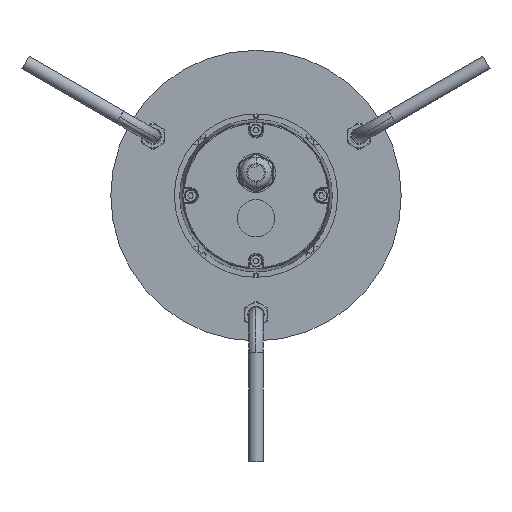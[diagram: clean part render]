
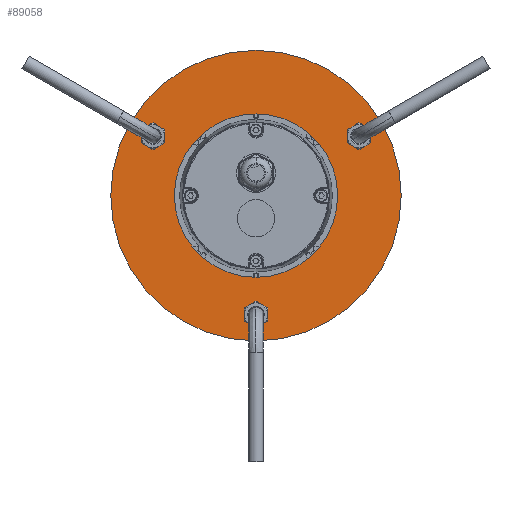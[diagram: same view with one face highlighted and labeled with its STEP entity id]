
A CAD part, front view. The second image highlights one B-rep face of the part: STEP entity #89058.
In plain terms, the highlighted planar face has unit normal (0, -1, 0) as drawn and (0, 0, 1) by its records, which use the part's own axes.
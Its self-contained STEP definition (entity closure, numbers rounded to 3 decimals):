
#88829=CARTESIAN_POINT('',(0.,0.,1.5));
#88830=DIRECTION('',(0.,0.,1.));
#88831=DIRECTION('',(1.,0.,0.));
#88832=AXIS2_PLACEMENT_3D('',#88829,#88830,#88831);
#88834=CARTESIAN_POINT('',(0.,0.,1.5));
#88835=DIRECTION('',(0.,0.,1.));
#88836=DIRECTION('',(-1.,0.,0.));
#88837=AXIS2_PLACEMENT_3D('',#88834,#88835,#88836);
#88839=CARTESIAN_POINT('',(0.,0.,1.5));
#88840=DIRECTION('',(0.,0.,-1.));
#88841=DIRECTION('',(1.,0.,0.));
#88842=AXIS2_PLACEMENT_3D('',#88839,#88840,#88841);
#88844=CARTESIAN_POINT('',(0.,0.,1.5));
#88845=DIRECTION('',(0.,0.,-1.));
#88846=DIRECTION('',(-1.,0.,0.));
#88847=AXIS2_PLACEMENT_3D('',#88844,#88845,#88846);
#88849=CARTESIAN_POINT('',(0.,-65.5,1.5));
#88850=DIRECTION('',(0.,0.,-1.));
#88851=DIRECTION('',(1.,0.,0.));
#88852=AXIS2_PLACEMENT_3D('',#88849,#88850,#88851);
#88854=CARTESIAN_POINT('',(0.,-65.5,1.5));
#88855=DIRECTION('',(0.,0.,-1.));
#88856=DIRECTION('',(-1.,0.,0.));
#88857=AXIS2_PLACEMENT_3D('',#88854,#88855,#88856);
#88859=CARTESIAN_POINT('',(-56.725,32.75,1.5));
#88860=DIRECTION('',(0.,0.,-1.));
#88861=DIRECTION('',(1.,0.,0.));
#88862=AXIS2_PLACEMENT_3D('',#88859,#88860,#88861);
#88864=CARTESIAN_POINT('',(-56.725,32.75,1.5));
#88865=DIRECTION('',(0.,0.,-1.));
#88866=DIRECTION('',(-1.,0.,0.));
#88867=AXIS2_PLACEMENT_3D('',#88864,#88865,#88866);
#88869=CARTESIAN_POINT('',(56.725,32.75,1.5));
#88870=DIRECTION('',(0.,0.,-1.));
#88871=DIRECTION('',(1.,0.,0.));
#88872=AXIS2_PLACEMENT_3D('',#88869,#88870,#88871);
#88874=CARTESIAN_POINT('',(56.725,32.75,1.5));
#88875=DIRECTION('',(0.,0.,-1.));
#88876=DIRECTION('',(-1.,0.,0.));
#88877=AXIS2_PLACEMENT_3D('',#88874,#88875,#88876);
#88907=CARTESIAN_POINT('',(-45.,0.,1.5));
#88908=CARTESIAN_POINT('',(45.,0.,1.5));
#88909=VERTEX_POINT('',#88907);
#88910=VERTEX_POINT('',#88908);
#88919=CARTESIAN_POINT('',(-61.225,32.75,1.5));
#88920=CARTESIAN_POINT('',(-52.225,32.75,1.5));
#88921=VERTEX_POINT('',#88919);
#88922=VERTEX_POINT('',#88920);
#88927=CARTESIAN_POINT('',(4.5,-65.5,1.5));
#88928=CARTESIAN_POINT('',(-4.5,-65.5,1.5));
#88929=VERTEX_POINT('',#88927);
#88930=VERTEX_POINT('',#88928);
#88935=CARTESIAN_POINT('',(61.225,32.75,1.5));
#88936=VERTEX_POINT('',#88935);
#88937=CARTESIAN_POINT('',(52.225,32.75,1.5));
#88938=VERTEX_POINT('',#88937);
#88943=CARTESIAN_POINT('',(80.,0.,1.5));
#88944=CARTESIAN_POINT('',(-80.,0.,1.5));
#88945=VERTEX_POINT('',#88943);
#88946=VERTEX_POINT('',#88944);
#89026=CARTESIAN_POINT('',(0.,0.,1.5));
#89027=DIRECTION('',(0.,0.,1.));
#89028=DIRECTION('',(1.,0.,0.));
#89029=AXIS2_PLACEMENT_3D('',#89026,#89027,#89028);
#89030=PLANE('',#89029);
#89031=ORIENTED_EDGE('',*,*,#89006,.F.);
#89032=ORIENTED_EDGE('',*,*,#89019,.F.);
#89033=EDGE_LOOP('',(#89031,#89032));
#89034=FACE_OUTER_BOUND('',#89033,.F.);
#89036=ORIENTED_EDGE('',*,*,#89035,.F.);
#89038=ORIENTED_EDGE('',*,*,#89037,.F.);
#89039=EDGE_LOOP('',(#89036,#89038));
#89040=FACE_BOUND('',#89039,.F.);
#89042=ORIENTED_EDGE('',*,*,#89041,.F.);
#89044=ORIENTED_EDGE('',*,*,#89043,.F.);
#89045=EDGE_LOOP('',(#89042,#89044));
#89046=FACE_BOUND('',#89045,.F.);
#89047=ORIENTED_EDGE('',*,*,#88956,.F.);
#89049=ORIENTED_EDGE('',*,*,#89048,.F.);
#89050=EDGE_LOOP('',(#89047,#89049));
#89051=FACE_BOUND('',#89050,.F.);
#89053=ORIENTED_EDGE('',*,*,#89052,.F.);
#89055=ORIENTED_EDGE('',*,*,#89054,.F.);
#89056=EDGE_LOOP('',(#89053,#89055));
#89057=FACE_BOUND('',#89056,.F.);
#89058=ADVANCED_FACE('',(#89034,#89040,#89046,#89051,#89057),#89030,.T.);
#88833=CIRCLE('',#88832,80.);
#88838=CIRCLE('',#88837,80.);
#88843=CIRCLE('',#88842,45.);
#88848=CIRCLE('',#88847,45.);
#88853=CIRCLE('',#88852,4.5);
#88858=CIRCLE('',#88857,4.5);
#88863=CIRCLE('',#88862,4.5);
#88868=CIRCLE('',#88867,4.5);
#88873=CIRCLE('',#88872,4.5);
#88878=CIRCLE('',#88877,4.5);
#88956=EDGE_CURVE('',#88922,#88921,#88863,.T.);
#89006=EDGE_CURVE('',#88945,#88946,#88833,.T.);
#89019=EDGE_CURVE('',#88946,#88945,#88838,.T.);
#89035=EDGE_CURVE('',#88910,#88909,#88843,.T.);
#89037=EDGE_CURVE('',#88909,#88910,#88848,.T.);
#89041=EDGE_CURVE('',#88929,#88930,#88853,.T.);
#89043=EDGE_CURVE('',#88930,#88929,#88858,.T.);
#89048=EDGE_CURVE('',#88921,#88922,#88868,.T.);
#89052=EDGE_CURVE('',#88936,#88938,#88873,.T.);
#89054=EDGE_CURVE('',#88938,#88936,#88878,.T.);
